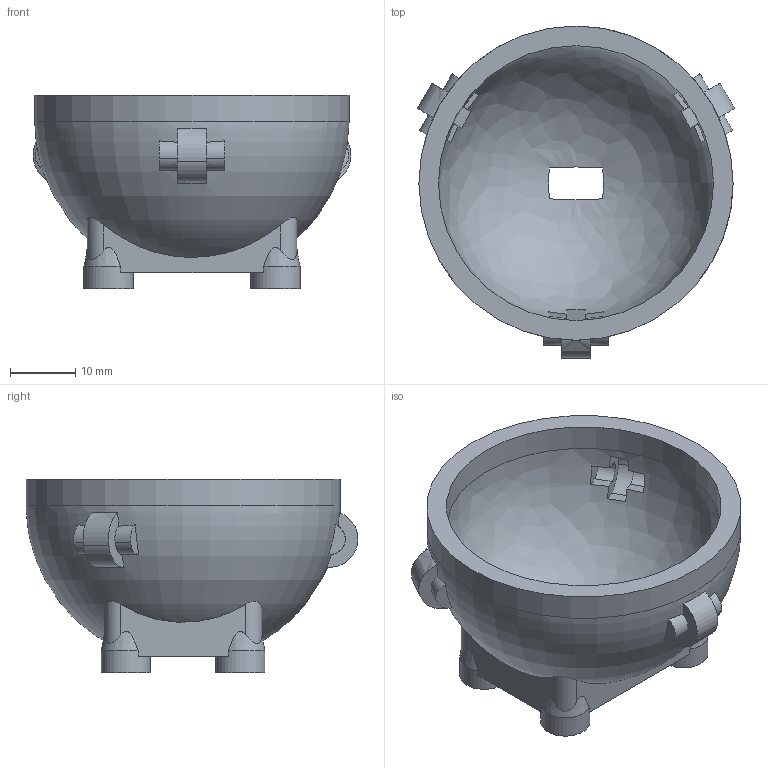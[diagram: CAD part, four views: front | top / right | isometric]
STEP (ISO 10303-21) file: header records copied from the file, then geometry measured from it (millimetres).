
FILE_DESCRIPTION(('Open CASCADE Model'),'2;1');
FILE_NAME('Open CASCADE Shape Model','2026-06-04T07:57:11',('Author'),( 'Open CASCADE'),'Open CASCADE STEP processor 7.6','Open CASCADE 7.6' ,'Unknown');
FILE_SCHEMA(('AP242_MANAGED_MODEL_BASED_3D_ENGINEERING_MIM_LF. {1 0 10303 442 1 1 4 }'));
Length unit declared in the file: millimetre
Products named in the file (1): Open CASCADE STEP translator 7.6 1
Bounding box: 48.5 x 50.7 x 29.6 mm (x, y, z)
Volume: 12819.6 mm3; surface area: 9537.9 mm2
Topology: 1 solids, 1 shells, 125 faces, 336 edges, 224 vertices
Faces by surface type: plane 61, extrusion 36, cylinder 18, bspline 4, cone 4, revolution 2
Full cylindrical faces by diameter (mm): 3.5 x4, 7.5 x4, 42 x1, 48 x1
Entity records: 19419 total; most frequent: CARTESIAN_POINT 13109, DIRECTION 1020, ORIENTED_EDGE 672, PCURVE 672, DEFINITIONAL_REPRESENTATION 672, VECTOR 506, LINE 470, B_SPLINE_CURVE_WITH_KNOTS 356
